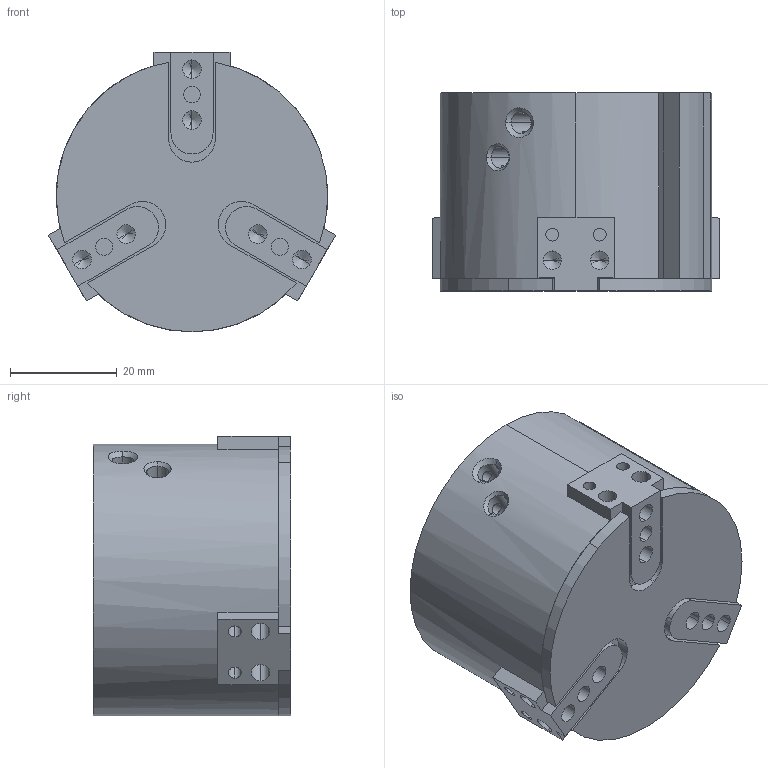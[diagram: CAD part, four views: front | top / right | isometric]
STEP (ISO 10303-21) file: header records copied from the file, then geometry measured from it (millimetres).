
FILE_DESCRIPTION (( 'STEP AP203' ), '1' );
FILE_NAME ('AGP-23 CLOSED in MM.STEP', '2014-11-05T14:01:10', ( 'setup' ), ( '' ), 'SwSTEP 2.0', 'SolidWorks 2013', '' );
FILE_SCHEMA (( 'CONFIG_CONTROL_DESIGN' ));
Length unit declared in the file: millimetre
Products named in the file (4): AGP-23 CAP; AGP-23 JAW; AGP-23 CLOSED in MM; AGP-23 BODY
Assembly tree (5 placements, depth 2):
  AGP-23 CLOSED in MM
    AGP-23 BODY
    AGP-23 CAP
    AGP-23 JAW  x3
Bounding box: 53.75 x 37.03 x 52.32 mm (x, y, z)
Volume: 69392 mm3; surface area: 23521.6 mm2
Topology: 5 solids, 5 shells, 204 faces, 504 edges, 303 vertices
Faces by surface type: cylinder 84, plane 78, cone 38, bspline 4
Entity records: 4681 total; most frequent: CARTESIAN_POINT 1216, DIRECTION 642, ORIENTED_EDGE 600, EDGE_CURVE 300, AXIS2_PLACEMENT_3D 230, VERTEX_POINT 195, LINE 182, VECTOR 182
